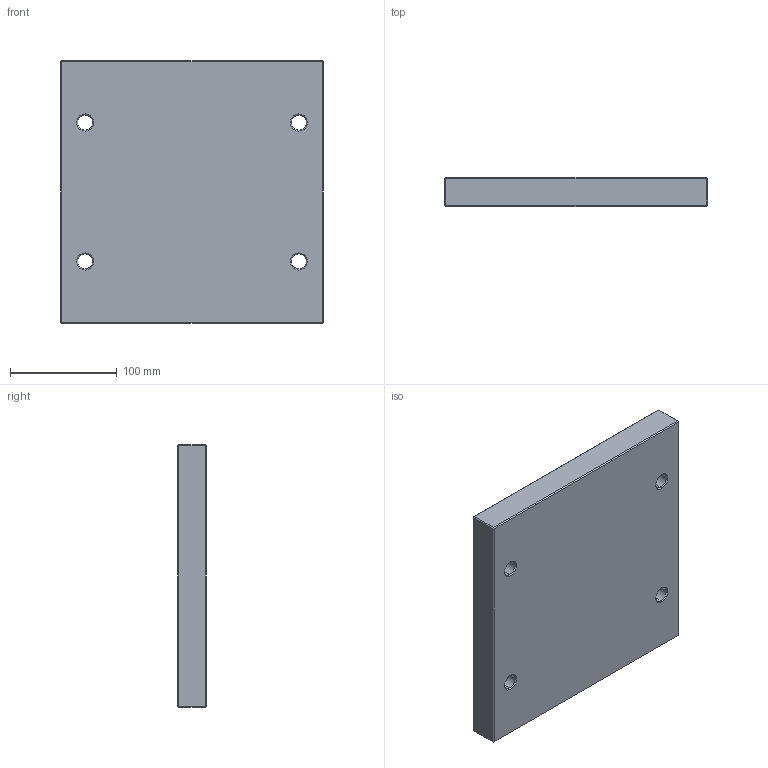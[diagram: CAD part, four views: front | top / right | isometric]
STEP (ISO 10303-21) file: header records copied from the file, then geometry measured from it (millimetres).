
FILE_DESCRIPTION (( 'STEP AP214' ), '1' );
FILE_NAME ('PS-246X246X27.STEP', '2020-05-12T15:27:00', ( 'August' ), ( '' ), 'SwSTEP 2.0', 'SolidWorks 2018', '' );
FILE_SCHEMA (( 'AUTOMOTIVE_DESIGN' ));
Length unit declared in the file: millimetre
Products named in the file (1): PS-246X246X27
Bounding box: 246 x 27 x 246 mm (x, y, z)
Volume: 1607079.6 mm3; surface area: 150715.2 mm2
Topology: 1 solids, 1 shells, 62 faces, 128 edges, 72 vertices
Faces by surface type: plane 30, cone 16, cylinder 16
Entity records: 1650 total; most frequent: DIRECTION 302, CARTESIAN_POINT 263, ORIENTED_EDGE 256, EDGE_CURVE 128, AXIS2_PLACEMENT_3D 111, LINE 80, VECTOR 80, EDGE_LOOP 74
